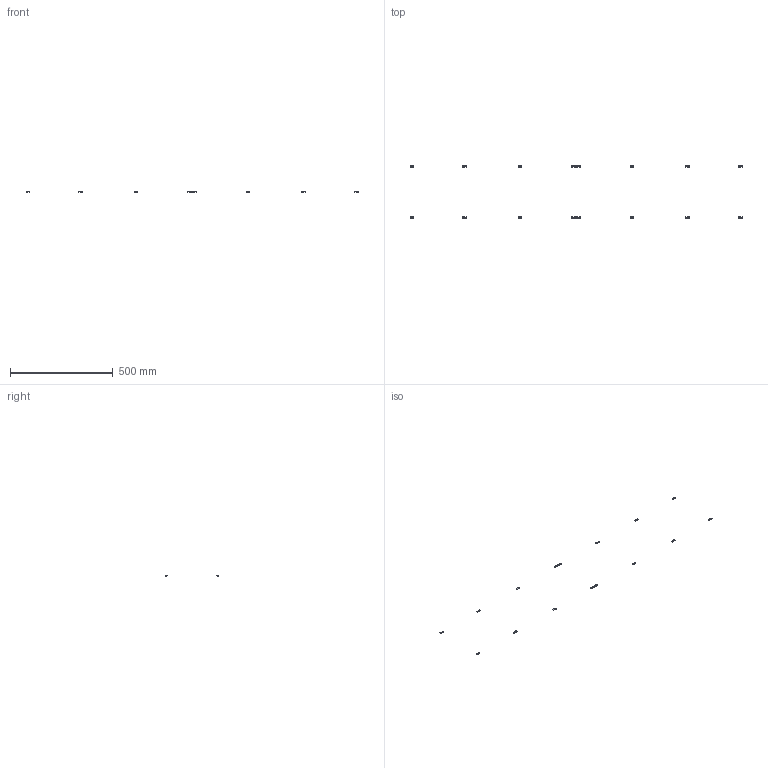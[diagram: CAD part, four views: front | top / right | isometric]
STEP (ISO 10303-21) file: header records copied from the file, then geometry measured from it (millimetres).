
FILE_DESCRIPTION(/* description */ (''),/* implementation_level */ '2;1');
FILE_NAME(/* name */ '14.frame-panels#14.5#HNTPZ5-5',/* time_stamp */ '2014-12-01T20:20:25+01:00',/* author */ (''),/* organization */ (''),/* preprocessor_version */ 'ST-DEVELOPER v14',/* originating_system */ '',/* authorisation */ '');
FILE_SCHEMA (('AUTOMOTIVE_DESIGN'));
Length unit declared in the file: millimetre
Products named in the file (2): Document; nut tslot, post, M5
Assembly tree (8 placements, depth 2):
  Document
    nut tslot, post, M5  x8
Bounding box: 1612 x 258.3 x 3.8 mm (x, y, z)
Volume: 5040.5 mm3; surface area: 6712.6 mm2
Topology: 16 solids, 16 shells, 208 faces, 576 edges, 384 vertices
Faces by surface type: plane 176, bspline 32
Entity records: 8673 total; most frequent: CARTESIAN_POINT 4115, B_SPLINE_CURVE_WITH_KNOTS 900, ORIENTED_EDGE 648, PCURVE 648, DEFINITIONAL_REPRESENTATION 648, SURFACE_CURVE 324, EDGE_CURVE 324, VERTEX_POINT 216
